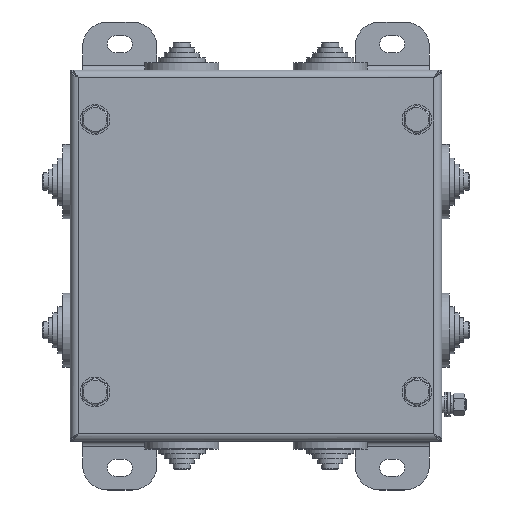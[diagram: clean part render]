
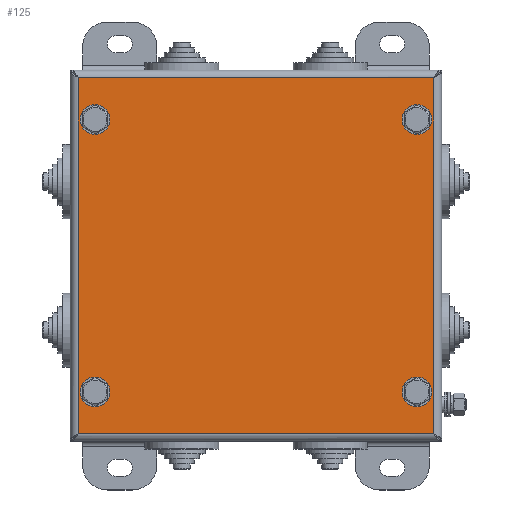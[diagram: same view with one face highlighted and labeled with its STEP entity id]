
A CAD part, top view. The second image highlights one B-rep face of the part: STEP entity #125.
In plain terms, the highlighted planar face has unit normal (0, 0, 1).
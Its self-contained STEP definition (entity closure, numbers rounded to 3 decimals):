
#125=ADVANCED_FACE('',(#15396,#15398,#15400,#15402,#15404),#15406,.T.);
#15396=FACE_BOUND('',#15397,.T.);
#15397=EDGE_LOOP('',(#28076,#28077,#28078,#28079));
#15398=FACE_BOUND('',#15399,.T.);
#15399=EDGE_LOOP('',(#28080));
#15400=FACE_BOUND('',#15401,.T.);
#15401=EDGE_LOOP('',(#28081));
#15402=FACE_BOUND('',#15403,.T.);
#15403=EDGE_LOOP('',(#28082));
#15404=FACE_BOUND('',#15405,.T.);
#15405=EDGE_LOOP('',(#28083));
#15406=PLANE('',#15407);
#15407=AXIS2_PLACEMENT_3D('',#15408,#15409,#15410);
#15408=CARTESIAN_POINT('',(0.,0.,61.5));
#15409=DIRECTION('',(0.,-0.,1.));
#15410=DIRECTION('',(0.,1.,0.));
#28076=ORIENTED_EDGE('',*,*,#38248,.T.);
#28077=ORIENTED_EDGE('',*,*,#38249,.T.);
#28078=ORIENTED_EDGE('',*,*,#38250,.T.);
#28079=ORIENTED_EDGE('',*,*,#38251,.T.);
#28080=ORIENTED_EDGE('',*,*,#38252,.F.);
#28081=ORIENTED_EDGE('',*,*,#38253,.F.);
#28082=ORIENTED_EDGE('',*,*,#38254,.F.);
#28083=ORIENTED_EDGE('',*,*,#38255,.F.);
#38248=EDGE_CURVE('',#42597,#42598,#42599,.T.);
#38249=EDGE_CURVE('',#42598,#42600,#42601,.T.);
#38250=EDGE_CURVE('',#42600,#42602,#42603,.T.);
#38251=EDGE_CURVE('',#42602,#42597,#42604,.T.);
#38252=EDGE_CURVE('',#42605,#42605,#42606,.T.);
#38253=EDGE_CURVE('',#42607,#42607,#42608,.T.);
#38254=EDGE_CURVE('',#42609,#42609,#42610,.T.);
#38255=EDGE_CURVE('',#42611,#42611,#42612,.T.);
#42597=VERTEX_POINT('',#49925);
#42598=VERTEX_POINT('',#49926);
#42599=LINE('',#49927,#49928);
#42600=VERTEX_POINT('',#49930);
#42601=LINE('',#49931,#49932);
#42602=VERTEX_POINT('',#49934);
#42603=LINE('',#49935,#49936);
#42604=LINE('',#49938,#49939);
#42605=VERTEX_POINT('',#49941);
#42606=CIRCLE('',#49942,6.);
#42607=VERTEX_POINT('',#49946);
#42608=CIRCLE('',#49947,6.);
#42609=VERTEX_POINT('',#49951);
#42610=CIRCLE('',#49952,6.);
#42611=VERTEX_POINT('',#49956);
#42612=CIRCLE('',#49957,6.);
#49925=CARTESIAN_POINT('',(-71.8,71.8,61.5));
#49926=CARTESIAN_POINT('',(-71.8,-71.8,61.5));
#49927=CARTESIAN_POINT('',(-71.8,71.8,61.5));
#49928=VECTOR('',#49929,1.);
#49929=DIRECTION('',(0.,-1.,0.));
#49930=CARTESIAN_POINT('',(71.8,-71.8,61.5));
#49931=CARTESIAN_POINT('',(-71.8,-71.8,61.5));
#49932=VECTOR('',#49933,1.);
#49933=DIRECTION('',(1.,0.,0.));
#49934=CARTESIAN_POINT('',(71.8,71.8,61.5));
#49935=CARTESIAN_POINT('',(71.8,-71.8,61.5));
#49936=VECTOR('',#49937,1.);
#49937=DIRECTION('',(0.,1.,0.));
#49938=CARTESIAN_POINT('',(71.8,71.8,61.5));
#49939=VECTOR('',#49940,1.);
#49940=DIRECTION('',(-1.,0.,0.));
#49941=CARTESIAN_POINT('',(-59.,-55.,61.5));
#49942=AXIS2_PLACEMENT_3D('',#49943,#49944,#49945);
#49943=CARTESIAN_POINT('',(-65.,-55.,61.5));
#49944=DIRECTION('',(0.,-0.,1.));
#49945=DIRECTION('',(1.,0.,0.));
#49946=CARTESIAN_POINT('',(71.,-55.,61.5));
#49947=AXIS2_PLACEMENT_3D('',#49948,#49949,#49950);
#49948=CARTESIAN_POINT('',(65.,-55.,61.5));
#49949=DIRECTION('',(0.,-0.,1.));
#49950=DIRECTION('',(1.,0.,0.));
#49951=CARTESIAN_POINT('',(-59.,55.,61.5));
#49952=AXIS2_PLACEMENT_3D('',#49953,#49954,#49955);
#49953=CARTESIAN_POINT('',(-65.,55.,61.5));
#49954=DIRECTION('',(0.,-0.,1.));
#49955=DIRECTION('',(1.,0.,0.));
#49956=CARTESIAN_POINT('',(71.,55.,61.5));
#49957=AXIS2_PLACEMENT_3D('',#49958,#49959,#49960);
#49958=CARTESIAN_POINT('',(65.,55.,61.5));
#49959=DIRECTION('',(0.,-0.,1.));
#49960=DIRECTION('',(1.,0.,0.));
